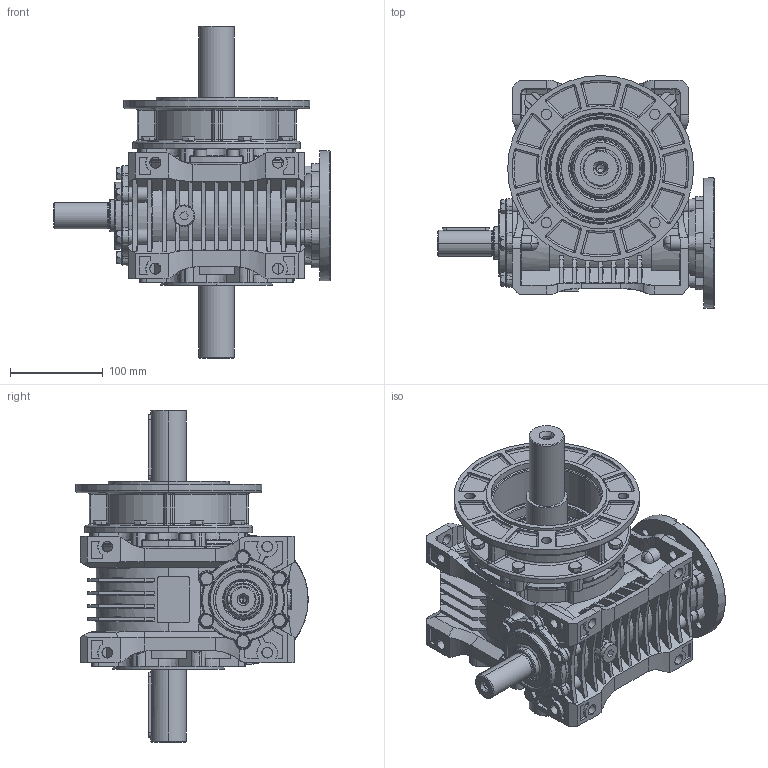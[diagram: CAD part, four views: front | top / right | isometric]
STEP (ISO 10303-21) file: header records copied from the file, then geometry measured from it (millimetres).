
FILE_DESCRIPTION (( 'STEP AP203' ), '1' );
FILE_NAME ('MR-80_140-24-WBS-K200_2-WD_2-3D.STEP', '2024-05-07T08:43:31', ( '' ), ( '' ), 'SwSTEP 2.0', 'SolidWorks 2022', '' );
FILE_SCHEMA (( 'CONFIG_CONTROL_DESIGN' ));
Length unit declared in the file: millimetre
Products named in the file (1): MR-80_140-24-WBS-K200_2-WD_2-3D
Bounding box: 297 x 250.22 x 357 mm (x, y, z)
Volume: 4999752 mm3; surface area: 604087 mm2
Topology: 1 solids, 66 shells, 3850 faces, 9836 edges, 6110 vertices
Faces by surface type: plane 1393, cone 1053, cylinder 685, torus 353, bspline 278, sphere 88
Entity records: 128220 total; most frequent: CARTESIAN_POINT 38300, ORIENTED_EDGE 19310, DIRECTION 18484, EDGE_CURVE 9655, AXIS2_PLACEMENT_3D 7251, VERTEX_POINT 6086, EDGE_LOOP 4115, VECTOR 3982
